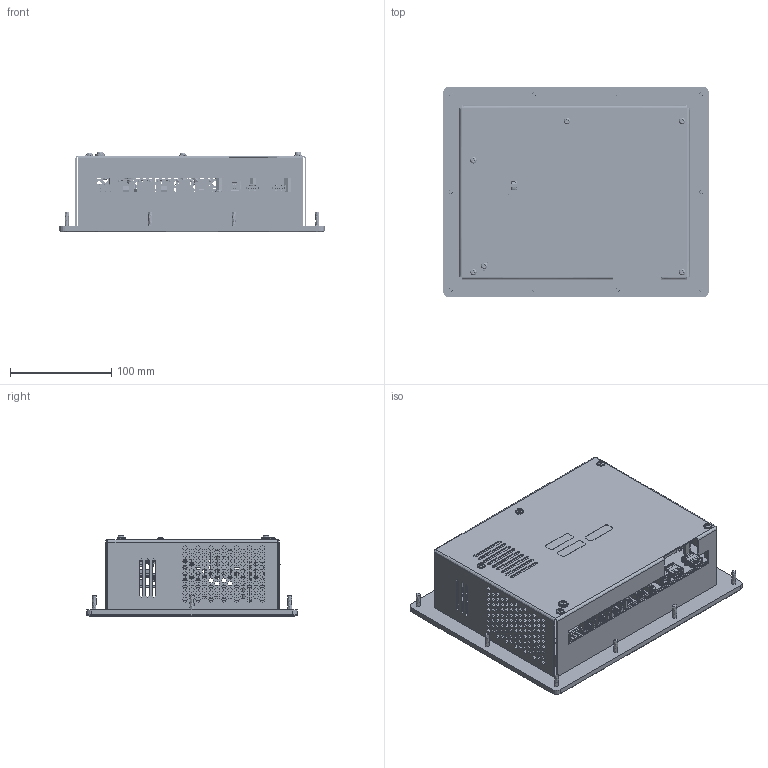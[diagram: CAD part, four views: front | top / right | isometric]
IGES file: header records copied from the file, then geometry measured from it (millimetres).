
Start section: C
Global section: file name: G308A2.igs; native system:  By UGS Corp.; preprocessor: XPlus GENERIC/IGES 3.0; author: Author; organization: Title; date: 20130917.110517; units: millimetre
Bounding box: 262 x 207.77 x 79.18 mm (x, y, z)
Surface area: 611376.7 mm2 (no closed solid volume)
Topology: 0 solids, 0 shells, 14895 faces, 88108 edges, 88078 vertices
Faces by surface type: bspline 14895
